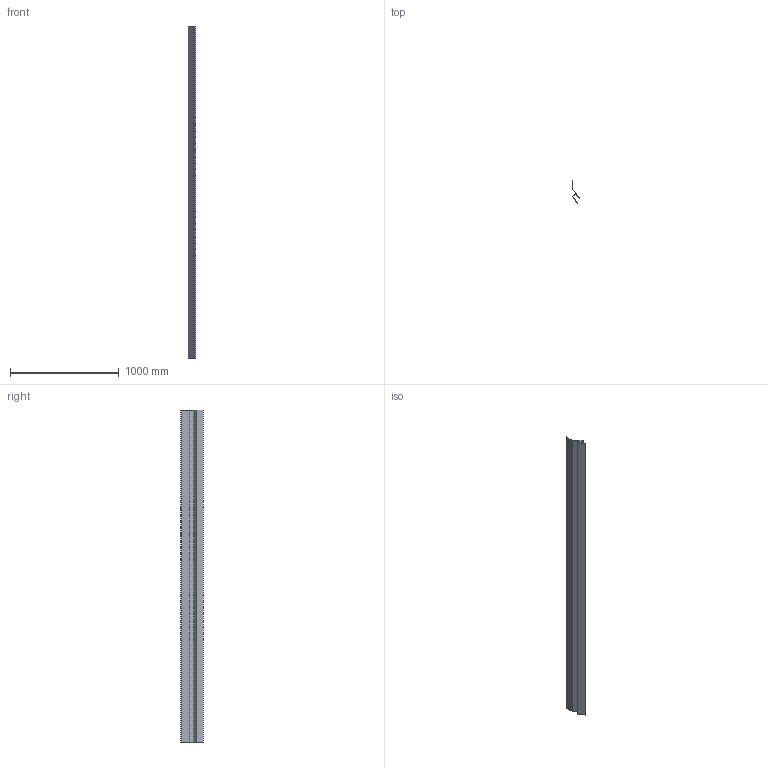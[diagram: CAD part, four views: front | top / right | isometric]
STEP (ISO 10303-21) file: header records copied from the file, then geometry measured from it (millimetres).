
FILE_DESCRIPTION (( 'STEP AP203' ), '1' );
FILE_NAME ('M61B.STEP', '2018-06-18T19:08:30', ( 'Michael Moliner' ), ( '' ), 'SwSTEP 2.0', 'SolidWorks 2018', '' );
FILE_SCHEMA (( 'CONFIG_CONTROL_DESIGN' ));
Length unit declared in the file: inch
Products named in the file (2): M61B
Bounding box: 66.95 x 202.23 x 3048 mm (x, y, z)
Volume: 579284.6 mm3; surface area: 2283875.8 mm2
Topology: 1 solids, 1 shells, 28 faces, 78 edges, 52 vertices
Faces by surface type: plane 20, cylinder 8
Entity records: 1055 total; most frequent: CARTESIAN_POINT 160, ORIENTED_EDGE 156, DIRECTION 154, EDGE_CURVE 78, VECTOR 62, LINE 62, VERTEX_POINT 52, AXIS2_PLACEMENT_3D 46
